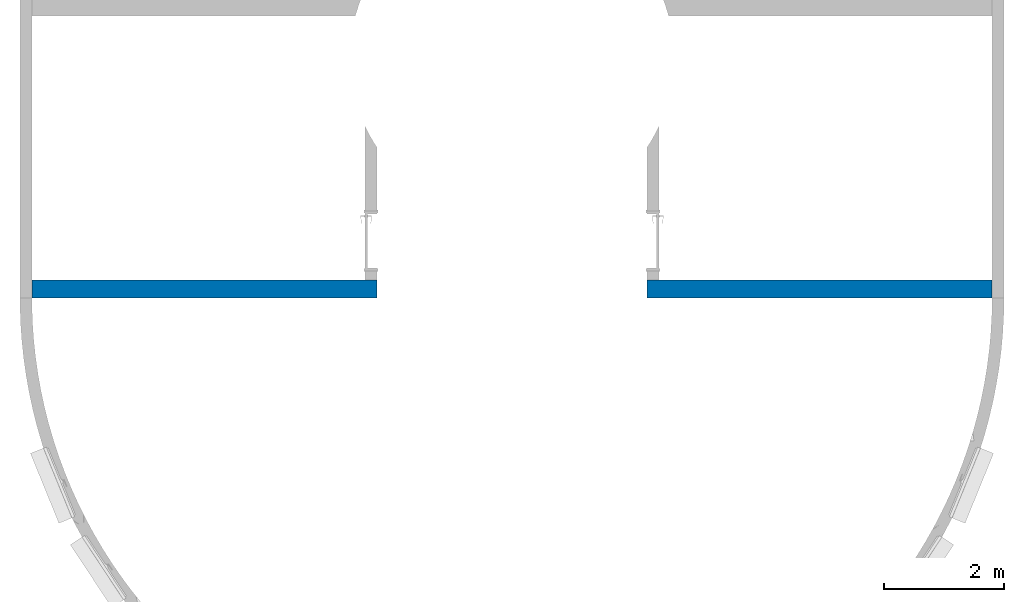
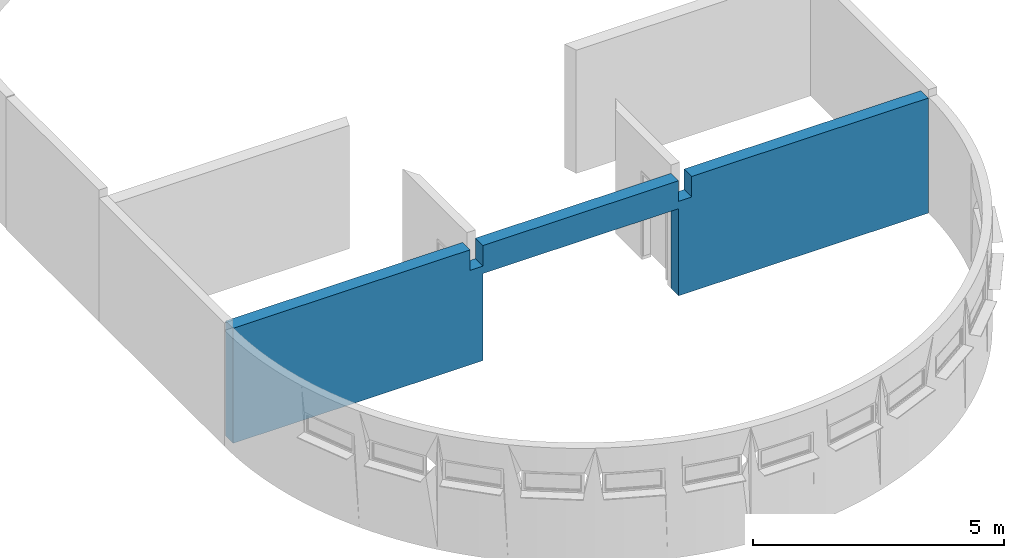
# One storey, part 3 of 6: 1 wall, 1 opening.
"""IFC4 building model written with IfcOpenShell, lengths in millimetres."""

import ifcopenshell
import ifcopenshell.guid

model = None  # the IFC model being written
_history = None  # IfcOwnerHistory: only IFC2X3 demands one
_inside = {}  # id of a spatial element -> (the spatial element, [elements in it])
_under = {}  # id of a project, library or spatial element -> (it, [spatial elements below it])
_declared = {}  # id of a project -> (the project, [libraries it declares])
_typed = {}  # id of a type object -> (the type object, [elements of that type])
_made_of = {}  # id of a material, layer set ... -> (it, [elements and type objects made of it])


def new_model(schema):
    """Start an empty IFC model of exactly this schema.

    Asked for "IFC4X3", IfcOpenShell would pick the latest addendum, in which some entities
    have other attributes; the version numbers below select the first issue.
    IFC2X3 requires an IfcOwnerHistory on every rooted entity: one is made here for all.
    """
    global model, _history
    if schema == "IFC4X3":
        model = ifcopenshell.file(schema_version=(4, 3, 0, 0))
    else:
        model = ifcopenshell.file(schema=schema)
    _inside.clear()
    _under.clear()
    _declared.clear()
    _typed.clear()
    _made_of.clear()
    _history = None
    if model.schema == "IFC2X3":
        org = make("IfcOrganization", Name="unknown")
        user = make(
            "IfcPersonAndOrganization",
            ThePerson=make("IfcPerson", FamilyName="unknown"),
            TheOrganization=org,
        )
        app = make(
            "IfcApplication",
            ApplicationDeveloper=org,
            Version="unknown",
            ApplicationFullName="unknown",
            ApplicationIdentifier="unknown",
        )
        _history = make(
            "IfcOwnerHistory",
            OwningUser=user,
            OwningApplication=app,
            ChangeAction="ADDED",
            CreationDate=0,
        )
    return model


def make(cls, **values):
    """One entity of the class cls with the attributes given. An attribute that is None is left unset."""
    return model.create_entity(
        cls, **{name: value for name, value in values.items() if value is not None}
    )


def entity(cls, *values):
    """Any entity or typed value of the class cls, its attributes in the order of the schema. None: left unset."""
    e = model.create_entity(cls)
    for i, value in enumerate(values):
        if value is not None:
            e[i] = value
    return e


def rooted(cls, **values):
    """An entity with a GlobalId (a new one), such as an element, a storey or a relation."""
    return make(cls, GlobalId=ifcopenshell.guid.new(), OwnerHistory=_history, **values)


def si_unit(unit_type, name, prefix=None):
    """IfcSIUnit, for example si_unit("LENGTHUNIT", "METRE", prefix="MILLI")."""
    return make("IfcSIUnit", UnitType=unit_type, Prefix=prefix, Name=name)


def converted_unit(unit_type, name, factor, base, dimensions=None, offset=None):
    """IfcConversionBasedUnit, such as the inch: factor (a typed value) times the base unit."""
    return make(
        "IfcConversionBasedUnit"
        if offset is None
        else "IfcConversionBasedUnitWithOffset",
        ConversionOffset=offset,
        Dimensions=None
        if dimensions is None
        else entity("IfcDimensionalExponents", *dimensions),
        UnitType=unit_type,
        Name=name,
        ConversionFactor=make(
            "IfcMeasureWithUnit", ValueComponent=factor, UnitComponent=base
        ),
    )


def derived_unit(unit_type, elements):
    """IfcDerivedUnit: a product of units, each with its exponent."""
    return make(
        "IfcDerivedUnit",
        Elements=[
            make("IfcDerivedUnitElement", Unit=unit, Exponent=power)
            for unit, power in elements
        ],
        UnitType=unit_type,
    )


def assignment(units):
    """IfcUnitAssignment: the units of a project."""
    return None if units is None else make("IfcUnitAssignment", Units=units)


def point(xyz):
    """IfcCartesianPoint."""
    return None if xyz is None else make("IfcCartesianPoint", Coordinates=xyz)


def direction(xyz):
    """IfcDirection."""
    return None if xyz is None else make("IfcDirection", DirectionRatios=xyz)


def frame(location, z_axis=None, x_axis=None):
    """IfcAxis2Placement3D, a coordinate frame: its origin and axes. An axis left out is left unset."""
    return make(
        "IfcAxis2Placement3D",
        Location=point(location),
        Axis=direction(z_axis),
        RefDirection=direction(x_axis),
    )


def origin_with_axes():
    """The frame at (0, 0, 0) with the z axis (0, 0, 1) and the x axis (1, 0, 0) written out."""
    return frame((0.0, 0.0, 0.0), z_axis=(0.0, 0.0, 1.0), x_axis=(1.0, 0.0, 0.0))


def place(relative_to, where):
    """IfcLocalPlacement: puts the frame where relative to a parent placement (None: the world)."""
    return make(
        "IfcLocalPlacement", PlacementRelTo=relative_to, RelativePlacement=where
    )


def context(
    kind, dimensions, precision=None, world=None, true_north=None, identifier=None
):
    """IfcGeometricRepresentationContext, for example the 3D "Model" context."""
    return make(
        "IfcGeometricRepresentationContext",
        ContextIdentifier=identifier,
        ContextType=kind,
        CoordinateSpaceDimension=dimensions,
        Precision=precision,
        WorldCoordinateSystem=world,
        TrueNorth=true_north,
    )


def subcontext(parent, identifier, kind, view, scale=None):
    """IfcGeometricRepresentationSubContext, for example "Body" below "Model"."""
    return make(
        "IfcGeometricRepresentationSubContext",
        ContextIdentifier=identifier,
        ContextType=kind,
        ParentContext=parent,
        TargetScale=scale,
        TargetView=view,
    )


def project(units=None, contexts=None):
    """IfcProject with its units and contexts."""
    return rooted(
        "IfcProject",
        Name="project",
        RepresentationContexts=contexts,
        UnitsInContext=assignment(units),
    )


def spatial(cls, under=None, at=None, **own):
    """A site, building, storey or space (cls), placed at a placement, below another one or the project."""
    s = rooted(cls, ObjectPlacement=at, **own)
    if under is not None:
        _under.setdefault(under.id(), (under, []))[1].append(s)
    return s


def point_list(points):
    """IfcCartesianPointList2D or 3D."""
    cls = (
        "IfcCartesianPointList2D" if len(points[0]) == 2 else "IfcCartesianPointList3D"
    )
    return make(cls, CoordList=points)


def polygons(points, faces, closed=None, point_numbers=None):
    """IfcPolygonalFaceSet: a face is its outer loop, then its inner loops; points numbered from 1."""
    made = []
    for loops in faces:
        if len(loops) == 1:
            made.append(make("IfcIndexedPolygonalFace", CoordIndex=loops[0]))
        else:
            made.append(
                make(
                    "IfcIndexedPolygonalFaceWithVoids",
                    CoordIndex=loops[0],
                    InnerCoordIndices=loops[1:],
                )
            )
    return make(
        "IfcPolygonalFaceSet",
        Coordinates=point_list(points),
        Closed=closed,
        Faces=made,
        PnIndex=point_numbers,
    )


def shape(context_of_items, identifier, shape_type, items):
    """IfcShapeRepresentation: the items that make up one representation, for example the "Body"."""
    return make(
        "IfcShapeRepresentation",
        ContextOfItems=context_of_items,
        RepresentationIdentifier=identifier,
        RepresentationType=shape_type,
        Items=items,
    )


def material(Name=None, Category=None):
    """IfcMaterial."""
    return make("IfcMaterial", Name=Name, Category=Category)


def constituent(of_material, Name=None, Category=None, fraction=None):
    """IfcMaterialConstituent: one of the materials an element consists of."""
    return make(
        "IfcMaterialConstituent",
        Name=Name,
        Material=of_material,
        Fraction=fraction,
        Category=Category,
    )


def constituent_set(constituents=None, Name=None):
    """IfcMaterialConstituentSet."""
    return make(
        "IfcMaterialConstituentSet", Name=Name, MaterialConstituents=constituents
    )


def made_of(thing, what):
    """Note that an element or type object is made of a material, layer set ...; save() writes the relation."""
    if what is not None:
        _made_of.setdefault(what.id(), (what, []))[1].append(thing)
    return thing


def type_object(cls, material=None, **own):
    """A type object (cls), such as IfcWallType, which elements share."""
    return made_of(rooted(cls, **own), material)


def element(
    cls,
    number,
    at=None,
    inside=None,
    cuts=None,
    type_object=None,
    material=None,
    context=None,
    identifier="Body",
    shape_type=None,
    held_by="IfcProductDefinitionShape",
    body=None,
    shapes=None,
    **own,
):
    """One element of the class cls, such as IfcWall. Its Tag is "e" and its number.

    at: its placement. inside: the storey or other place that contains it. cuts: it is an
    opening in that element (IfcRelVoidsElement). A single representation is given by context,
    identifier, shape_type and body (its items); several are given by shapes. held_by: the class
    of the entity that holds the representations. save() writes the other relations.
    """
    e = rooted(cls, Tag="e%d" % number, ObjectPlacement=at, **own)
    if body is not None:
        shapes = [shape(context, identifier, shape_type, body)]
    if shapes is not None:
        e.Representation = make(held_by, Representations=shapes)
    if inside is not None:
        _inside.setdefault(inside.id(), (inside, []))[1].append(e)
    if cuts is not None:
        rooted(
            "IfcRelVoidsElement", RelatingBuildingElement=cuts, RelatedOpeningElement=e
        )
    if type_object is not None:
        _typed.setdefault(type_object.id(), (type_object, []))[1].append(e)
    return made_of(e, material)


def aggregate(whole, parts):
    """IfcRelAggregates: a whole, such as a stair, and the parts it consists of."""
    return rooted("IfcRelAggregates", RelatingObject=whole, RelatedObjects=parts)


def save(model, path):
    """Write the relations noted so far, then the file.

    IfcRelAggregates (storeys below a building ...), IfcRelContainedInSpatialStructure (elements
    in a storey), IfcRelDefinesByType, IfcRelAssociatesMaterial and IfcRelDeclares: one each for
    every whole, place, type object, material and project.
    """
    for whole, parts in _under.values():
        aggregate(whole, parts)
    for where, things in _inside.values():
        rooted(
            "IfcRelContainedInSpatialStructure",
            RelatedElements=things,
            RelatingStructure=where,
        )
    for kind, things in _typed.values():
        rooted("IfcRelDefinesByType", RelatedObjects=things, RelatingType=kind)
    for what, things in _made_of.values():
        rooted("IfcRelAssociatesMaterial", RelatedObjects=things, RelatingMaterial=what)
    for by, libraries in _declared.values():
        rooted("IfcRelDeclares", RelatingContext=by, RelatedDefinitions=libraries)
    model.write(path)


model = new_model("IFC4")

# Units and contexts
model_context = context("Model", 3, precision=0.01, world=origin_with_axes(), true_north=direction((0.0, 1.0)))
body_context = subcontext(model_context, "Body", "Model", "MODEL_VIEW")
ifc_project = project(units=[si_unit("LENGTHUNIT", "METRE", prefix="MILLI"), si_unit("AREAUNIT", "SQUARE_METRE"), si_unit("VOLUMEUNIT", "CUBIC_METRE"), converted_unit("PLANEANGLEUNIT", "DEGREE", entity("IfcPlaneAngleMeasure", 0.0174532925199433), si_unit("PLANEANGLEUNIT", "RADIAN"), dimensions=[0, 0, 0, 0, 0, 0, 0]), converted_unit("TIMEUNIT", "Year", entity("IfcTimeMeasure", 31557600.0), si_unit("TIMEUNIT", "SECOND"), dimensions=[0, 0, 1, 0, 0, 0, 0]), si_unit("MASSUNIT", "GRAM", prefix="KILO"), si_unit("THERMODYNAMICTEMPERATUREUNIT", "DEGREE_CELSIUS"), si_unit("LUMINOUSINTENSITYUNIT", "LUMEN"), si_unit("ENERGYUNIT", "JOULE", prefix="MEGA"), derived_unit("THERMALCONDUCTANCEUNIT", [(si_unit("POWERUNIT", "WATT"), 1), (si_unit("LENGTHUNIT", "METRE"), -1), (si_unit("THERMODYNAMICTEMPERATUREUNIT", "KELVIN"), -1)]), derived_unit("SPECIFICHEATCAPACITYUNIT", [(si_unit("ENERGYUNIT", "JOULE"), 1), (si_unit("MASSUNIT", "GRAM", prefix="KILO"), -1), (si_unit("THERMODYNAMICTEMPERATUREUNIT", "KELVIN"), -1)]), derived_unit("MASSDENSITYUNIT", [(si_unit("MASSUNIT", "GRAM", prefix="KILO"), 1), (si_unit("VOLUMEUNIT", "CUBIC_METRE"), -1)])], contexts=[model_context])

# Site, building, storey
site_placement = place(None, origin_with_axes())
site = spatial("IfcSite", under=ifc_project, at=site_placement, Name="Exteriér", CompositionType="ELEMENT")
building_placement = place(site_placement, origin_with_axes())
building = spatial("IfcBuilding", under=site, at=building_placement, Name="Univerzitní lezecké centrum", CompositionType="ELEMENT")
storey_placement = place(building_placement, frame((0.0, 0.0, 6400.0), z_axis=(0.0, 0.0, 1.0), x_axis=(1.0, 0.0, 0.0)))
storey = spatial("IfcBuildingStorey", under=building, at=storey_placement, Name="3.NP", CompositionType="ELEMENT", Elevation=6400.0)

# Wall, opening
ifc_material = material(Name="Beton vyztužený - vnitřní svislé kce")
ifc_constituent = constituent(ifc_material, Name="Beton vyztužený - vnitřní svislé kce")
ifc_constituent_set = constituent_set(constituents=[ifc_constituent], Name="!Vnitřní betonová stěna 300 mm")
wall_type = type_object("IfcWallType", Name="!Vnitřní betonová stěna 300 mm 300", PredefinedType="NOTDEFINED")
wall_placement = place(storey_placement, frame((-5550.148351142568, 0.0, -120.000000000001), z_axis=(0.0, 0.0, 1.0), x_axis=(1.0, 0.0, 0.0)))
wall = element("IfcWall", 1, at=wall_placement, inside=storey, type_object=wall_type, material=ifc_constituent_set, Name="St04", PredefinedType="NOTDEFINED", context=body_context, shape_type="Tessellation", body=[
    polygons([(5749.93276589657, -300.0000009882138, 0.4999999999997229), (5749.929428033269, -1.308841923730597e-09, 0.4999999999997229), (5749.929545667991, 0.0, 120.000000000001), (5749.929545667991, -299.9999999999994, 120.000000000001), (5749.929428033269, 0.0, 0.0), (5749.93276589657, -300.0000009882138, 0.0), (10249.92942803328, -9.882139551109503e-07, 0.0), (10249.92942803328, -9.882139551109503e-07, 0.4999999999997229), (10249.92954566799, 0.0, 120.000000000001), (10249.92954566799, -2.29684546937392e-05, 2120.000000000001), (5749.929545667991, -2.296845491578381e-05, 2120.000000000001), (0.0, 0.0, 0.0), (0.0, -9.128208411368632e-06, 2800.000000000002), (5449.926206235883, -0.001692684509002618, 2800.000000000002), (5449.926206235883, -0.001692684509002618, 2300.000000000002), (5749.926206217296, 0.001646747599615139, 2300.000000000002), (5749.926206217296, 0.001646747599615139, 2800.000000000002), (10250.09951274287, -2.29684546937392e-05, 2800.000000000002), (10250.09951274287, -2.29684546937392e-05, 2300.000000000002), (10550.09951274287, -2.29684546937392e-05, 2300.000000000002), (10550.09951274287, -2.29684546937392e-05, 2800.000000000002), (15999.99999999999, 9.54642498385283e-06, 2800.000000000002), (15999.99999999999, 0.0, 0.0), (5749.929545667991, -299.9999999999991, 2120.000000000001), (10249.92942803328, -300.0000009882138, 0.4999999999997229), (10249.92942803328, -300.0000009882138, 0.0), (15999.99999999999, -299.9999999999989, 0.0), (15999.99999999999, -299.9999999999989, 2800.000000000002), (10550.09951274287, -299.9999999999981, 2800.000000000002), (10550.09951274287, -299.9999999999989, 2300.000000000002), (10250.09951274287, -299.9999999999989, 2300.000000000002), (10250.09951274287, -299.9999999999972, 2800.000000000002), (5749.929545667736, -299.9999999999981, 2800.000000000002), (5749.929545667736, -300.0000000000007, 2300.000000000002), (5449.92954564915, -300.0000000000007, 2300.000000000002), (5449.92954564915, -299.9999999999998, 2800.000000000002), (0.0, -299.9999999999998, 2800.000000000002), (0.0, -299.9999999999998, 0.0), (10249.92954566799, -299.9999999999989, 2120.000000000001), (10249.92954566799, -299.9999999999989, 120.000000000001)], [[[1, 2, 3, 4]], [[5, 2, 1, 6]], [[7, 8, 9, 10, 11, 3, 2, 5, 12, 13, 14, 15, 16, 17, 18, 19, 20, 21, 22, 23]], [[11, 24, 4, 3]], [[25, 26, 27, 28, 29, 30, 31, 32, 33, 34, 35, 36, 37, 38, 6, 1, 4, 24, 39, 40]], [[5, 6, 38, 12]], [[25, 8, 7, 26]], [[8, 25, 40, 9]], [[9, 40, 39, 10]], [[10, 39, 24, 11]], [[12, 38, 37, 13]], [[14, 13, 37, 36]], [[14, 36, 35, 15]], [[15, 35, 34, 16]], [[17, 16, 34, 33]], [[17, 33, 32, 18]], [[32, 31, 19, 18]], [[31, 30, 20, 19]], [[20, 30, 29, 21]], [[28, 22, 21, 29]], [[27, 23, 22, 28]], [[26, 7, 23, 27]]], closed=True),
])
opening_placement = place(wall_placement, frame((7999.929545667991, 0.0, 120.000000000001), z_axis=(0.0, 0.0, 1.0), x_axis=(1.0, 0.0, 0.0)))
element("IfcOpeningElement", 2, at=opening_placement, cuts=wall, context=body_context, identifier="Reference", shape_type="Tessellation", body=[
    polygons([(-2250.0, -301.0000000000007, 2000.0), (-2250.0, -301.0000000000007, 0.0), (2250.0, -301.0000000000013, 0.0), (2250.0, -301.0000000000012, 2000.0), (-2250.0, 1.000000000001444, 2000.0), (-2250.0, 1.000000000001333, 0.0), (2250.0, 1.000000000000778, 0.0), (2250.0, 1.000000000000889, 2000.0)], [[[1, 2, 3, 4]], [[5, 6, 2, 1]], [[6, 7, 3, 2]], [[7, 8, 4, 3]], [[8, 5, 1, 4]], [[7, 6, 5, 8]]], closed=True),
])

save(model, "model.ifc")
